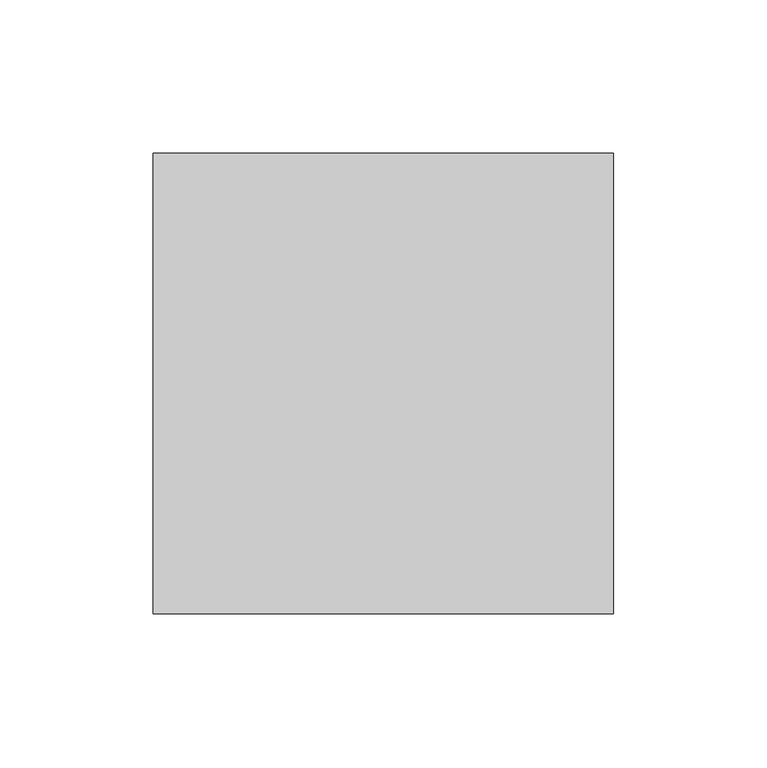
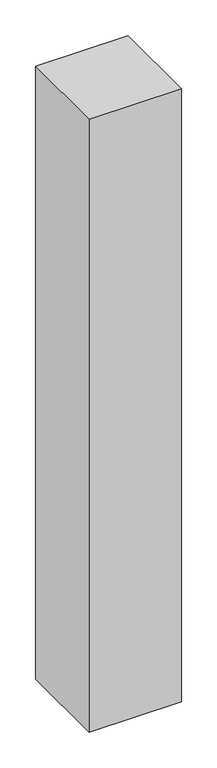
"""IFC4 building model written with IfcOpenShell, lengths in millimetres: proxy geometry, Брус : 150х150."""

from ifc_helpers import new_model, si_unit, origin, origin_with_axes, place, context, project, spatial, polyline, outline, extrude, source, transform, mapped, element, save


def generic_models_a04b8802(model_context):
    return source(origin(), model_context, "Body", "SweptSolid", [
        extrude(outline(polyline([(150.0, 0.0), (0.0, 0.0), (0.0, 150.0), (150.0, 150.0), (150.0, 0.0)])), origin_with_axes(), (0.0, 0.0, 1.0), 1050.0),
    ])


if __name__ == "__main__":
    model = new_model("IFC4")
    model_context = context("Model", 3, world=origin())
    ifc_project = project(units=[si_unit("LENGTHUNIT", "METRE", prefix="MILLI")], contexts=[model_context])
    site = spatial("IfcSite", under=ifc_project)
    building = spatial("IfcBuilding", under=site)
    placement = place(None, origin())
    generic_models_shape = generic_models_a04b8802(model_context)
    element("IfcBuildingElementProxy", 1, Name="Брус : 150х150", ObjectType="Брус : 150х150", at=placement, inside=building, context=model_context, shape_type="MappedRepresentation", body=[
        mapped(generic_models_shape, transform((0.0, 0.0, 0.0), x_axis=(1.0, 0.0, 0.0), y_axis=(0.0, 1.0, 0.0), z_axis=(0.0, 0.0, 1.0))),
    ])
    save(model, "model.ifc")
